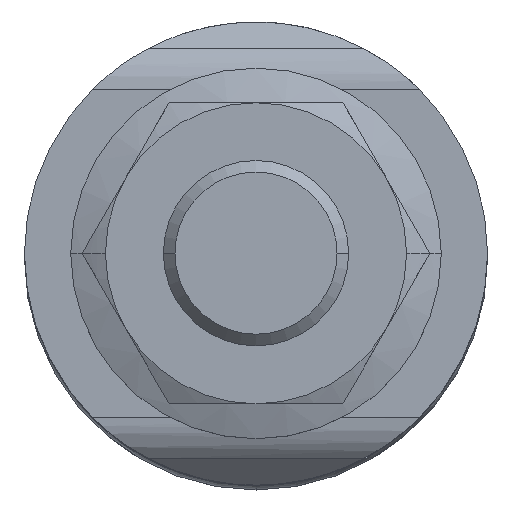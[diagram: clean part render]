
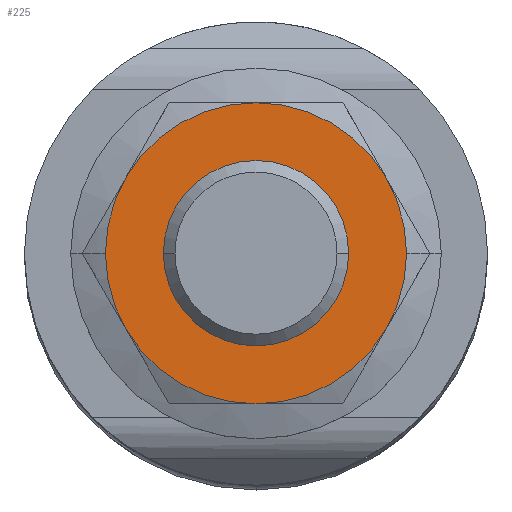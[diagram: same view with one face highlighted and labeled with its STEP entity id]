
A CAD part, top view. The second image highlights one B-rep face of the part: STEP entity #225.
In plain terms, the highlighted planar face has unit normal (0, 0, 1).
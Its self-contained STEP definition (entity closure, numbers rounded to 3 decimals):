
#225=ADVANCED_FACE('',(#457,#458),#459,.F.);
#457=FACE_BOUND('',#748,.T.);
#458=FACE_OUTER_BOUND('',#749,.T.);
#459=PLANE('',#750);
#748=EDGE_LOOP('',(#1140,#1141));
#749=EDGE_LOOP('',(#1142,#1143,#1144,#1145,#1146,#1147,#1148,#1149));
#750=AXIS2_PLACEMENT_3D('',#1150,#1151,#1152);
#1140=ORIENTED_EDGE('',*,*,#1601,.T.);
#1141=ORIENTED_EDGE('',*,*,#1631,.T.);
#1142=ORIENTED_EDGE('',*,*,#1632,.F.);
#1143=ORIENTED_EDGE('',*,*,#1596,.F.);
#1144=ORIENTED_EDGE('',*,*,#1633,.F.);
#1145=ORIENTED_EDGE('',*,*,#1634,.F.);
#1146=ORIENTED_EDGE('',*,*,#1635,.F.);
#1147=ORIENTED_EDGE('',*,*,#1636,.F.);
#1148=ORIENTED_EDGE('',*,*,#1594,.F.);
#1149=ORIENTED_EDGE('',*,*,#1637,.F.);
#1150=CARTESIAN_POINT('',(7.506,0.,140.049));
#1151=DIRECTION('',(0.,0.0,-1.0));
#1152=DIRECTION('',(0.0,-1.0,0.0));
#1594=EDGE_CURVE('',#1899,#1897,#1901,.T.);
#1596=EDGE_CURVE('',#1902,#1905,#1906,.T.);
#1601=EDGE_CURVE('',#1909,#1913,#1915,.T.);
#1631=EDGE_CURVE('',#1913,#1909,#1963,.T.);
#1632=EDGE_CURVE('',#1905,#1940,#1964,.T.);
#1633=EDGE_CURVE('',#1950,#1902,#1965,.T.);
#1634=EDGE_CURVE('',#1955,#1950,#1966,.T.);
#1635=EDGE_CURVE('',#1960,#1955,#1967,.T.);
#1636=EDGE_CURVE('',#1897,#1960,#1968,.T.);
#1637=EDGE_CURVE('',#1940,#1899,#1969,.T.);
#1897=VERTEX_POINT('',#2295);
#1899=VERTEX_POINT('',#2297);
#1901=CIRCLE('',#2299,6.5);
#1902=VERTEX_POINT('',#2300);
#1905=VERTEX_POINT('',#2303);
#1906=CIRCLE('',#2304,6.5);
#1909=VERTEX_POINT('',#2307);
#1913=VERTEX_POINT('',#2312);
#1915=CIRCLE('',#2315,3.35);
#1940=VERTEX_POINT('',#2360);
#1950=VERTEX_POINT('',#2380);
#1955=VERTEX_POINT('',#2386);
#1960=VERTEX_POINT('',#2392);
#1963=CIRCLE('',#2395,3.35);
#1964=CIRCLE('',#2396,6.5);
#1965=CIRCLE('',#2397,6.5);
#1966=CIRCLE('',#2398,6.5);
#1967=CIRCLE('',#2399,6.5);
#1968=CIRCLE('',#2400,6.5);
#1969=CIRCLE('',#2401,6.5);
#2295=CARTESIAN_POINT('',(6.5,0.,140.049));
#2297=CARTESIAN_POINT('',(5.629,3.25,140.049));
#2299=AXIS2_PLACEMENT_3D('',#2736,#2737,#2738);
#2300=CARTESIAN_POINT('',(-6.5,0.,140.049));
#2303=CARTESIAN_POINT('',(-5.629,3.25,140.049));
#2304=AXIS2_PLACEMENT_3D('',#2742,#2743,#2744);
#2307=CARTESIAN_POINT('',(-3.35,0.,140.049));
#2312=CARTESIAN_POINT('',(3.35,0.,140.049));
#2315=AXIS2_PLACEMENT_3D('',#2753,#2754,#2755);
#2360=CARTESIAN_POINT('',(0.,6.5,140.049));
#2380=CARTESIAN_POINT('',(-5.629,-3.25,140.049));
#2386=CARTESIAN_POINT('',(0.,-6.5,140.049));
#2392=CARTESIAN_POINT('',(5.629,-3.25,140.049));
#2395=AXIS2_PLACEMENT_3D('',#2805,#2806,#2807);
#2396=AXIS2_PLACEMENT_3D('',#2808,#2809,#2810);
#2397=AXIS2_PLACEMENT_3D('',#2811,#2812,#2813);
#2398=AXIS2_PLACEMENT_3D('',#2814,#2815,#2816);
#2399=AXIS2_PLACEMENT_3D('',#2817,#2818,#2819);
#2400=AXIS2_PLACEMENT_3D('',#2820,#2821,#2822);
#2401=AXIS2_PLACEMENT_3D('',#2823,#2824,#2825);
#2736=CARTESIAN_POINT('',(0.,0.,140.049));
#2737=DIRECTION('',(0.0,0.0,-1.0));
#2738=DIRECTION('',(-1.0,0.0,0.0));
#2742=CARTESIAN_POINT('',(0.,0.,140.049));
#2743=DIRECTION('',(0.0,0.0,-1.0));
#2744=DIRECTION('',(-1.0,0.0,0.0));
#2753=CARTESIAN_POINT('',(0.0,0.,140.049));
#2754=DIRECTION('',(0.0,0.0,-1.0));
#2755=DIRECTION('',(-1.0,0.0,0.0));
#2805=CARTESIAN_POINT('',(0.0,0.,140.049));
#2806=DIRECTION('',(0.0,0.0,-1.0));
#2807=DIRECTION('',(-1.0,0.0,0.0));
#2808=CARTESIAN_POINT('',(0.,0.,140.049));
#2809=DIRECTION('',(0.0,0.0,-1.0));
#2810=DIRECTION('',(-1.0,0.0,0.0));
#2811=CARTESIAN_POINT('',(0.,0.,140.049));
#2812=DIRECTION('',(0.0,0.0,-1.0));
#2813=DIRECTION('',(-1.0,0.0,0.0));
#2814=CARTESIAN_POINT('',(0.,0.,140.049));
#2815=DIRECTION('',(0.0,0.0,-1.0));
#2816=DIRECTION('',(-1.0,0.0,0.0));
#2817=CARTESIAN_POINT('',(0.,0.,140.049));
#2818=DIRECTION('',(0.0,0.0,-1.0));
#2819=DIRECTION('',(-1.0,0.0,0.0));
#2820=CARTESIAN_POINT('',(0.,0.,140.049));
#2821=DIRECTION('',(0.0,0.0,-1.0));
#2822=DIRECTION('',(-1.0,0.0,0.0));
#2823=CARTESIAN_POINT('',(0.,0.,140.049));
#2824=DIRECTION('',(0.0,0.0,-1.0));
#2825=DIRECTION('',(-1.0,0.0,0.0));
